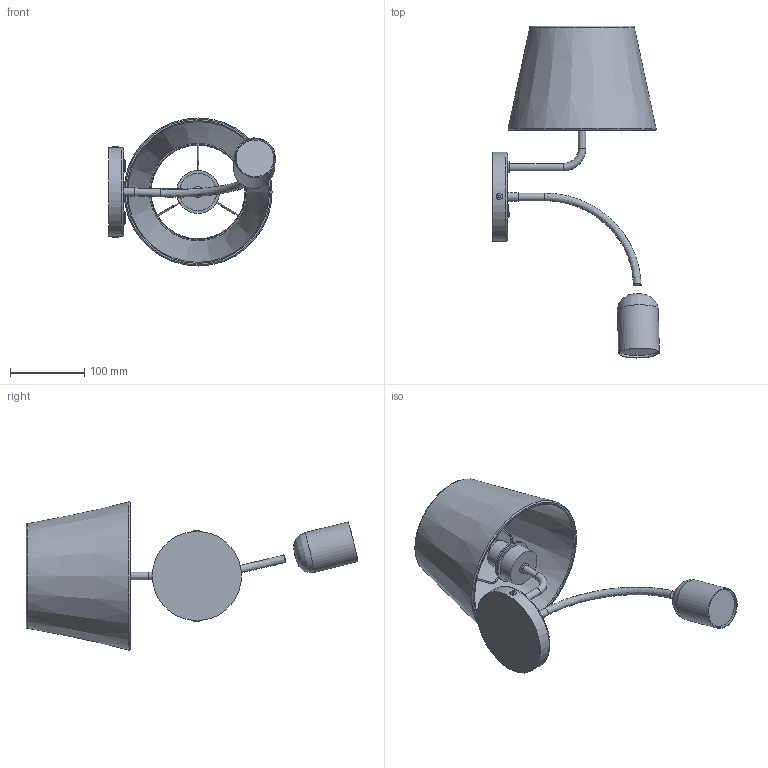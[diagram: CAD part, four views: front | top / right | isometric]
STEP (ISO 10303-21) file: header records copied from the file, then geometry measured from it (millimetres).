
FILE_DESCRIPTION(/* description */ (''),/* implementation_level */ '2;1');
FILE_NAME(/* name */ 'C:/Users/kubaw/OneDrive/Pulpit/Nowy folder/2535_MAJA/2535_MAJA v5.step',/* time_stamp */ '2021-03-13T09:40:42+01:00',/* author */ (''),/* organization */ (''),/* preprocessor_version */ 'ST-DEVELOPER v18.1',/* originating_system */ 'Autodesk Translation Framework v9.10.0.1330',/* authorisation */ '');
FILE_SCHEMA (('AUTOMOTIVE_DESIGN { 1 0 10303 214 3 1 1 }'));
Length unit declared in the file: millimetre
Products named in the file (3): 2535_MAJA; ŚRUBA MAJA; ŚRUBA MAJA v3(Mirror)
Assembly tree (2 placements, depth 2):
  2535_MAJA
    ŚRUBA MAJA
    ŚRUBA MAJA v3(Mirror)
Bounding box: 224.36 x 446.78 x 199.29 mm (x, y, z)
Volume: 740273.4 mm3; surface area: 263377.6 mm2
Topology: 24 solids, 24 shells, 144 faces, 271 edges, 177 vertices
Faces by surface type: plane 74, cylinder 39, torus 15, bspline 9, cone 7
Full cylindrical faces by diameter (mm): 2 x6, 8.656 x2, 10 x4, 15 x4, 15.2 x2, 17.2 x2, 31 x1, 36 x1, 37 x1, 40 x1, 50 x1, 53 x1, 55 x1, 56 x1, 58 x1, 120 x1, 126 x1
Entity records: 4269 total; most frequent: CARTESIAN_POINT 1169, DIRECTION 670, ORIENTED_EDGE 542, AXIS2_PLACEMENT_3D 288, EDGE_CURVE 271, VERTEX_POINT 177, EDGE_LOOP 158, FACE_OUTER_BOUND 144
